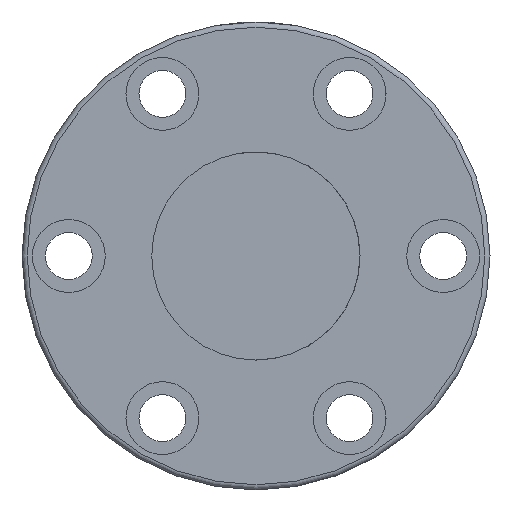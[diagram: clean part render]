
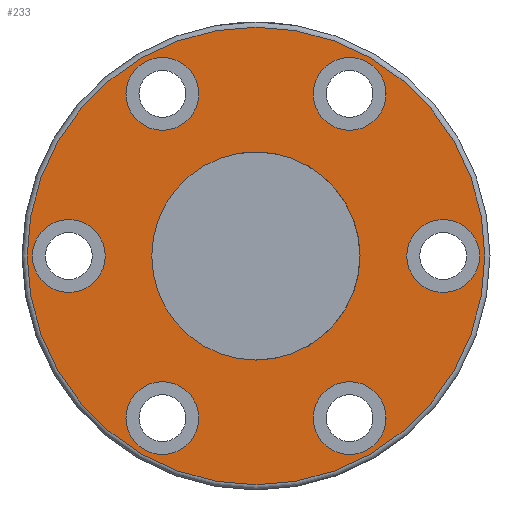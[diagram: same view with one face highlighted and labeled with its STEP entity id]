
A CAD part, front view. The second image highlights one B-rep face of the part: STEP entity #233.
In plain terms, the highlighted planar face has unit normal (0, -1, 0).
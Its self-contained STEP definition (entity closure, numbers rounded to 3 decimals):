
#2 = CARTESIAN_POINT ( 'NONE',  ( 18.039, -27.461, -24.177 ) ) ;
#38 = ORIENTED_EDGE ( 'NONE', *, *, #540, .T. ) ;
#40 = EDGE_CURVE ( 'NONE', #757, #757, #275, .T. ) ;
#64 = AXIS2_PLACEMENT_3D ( 'NONE', #1014, #308, #585 ) ;
#66 = DIRECTION ( 'NONE',  ( 0., 0., 1. ) ) ;
#89 = EDGE_LOOP ( 'NONE', ( #893 ) ) ;
#99 = DIRECTION ( 'NONE',  ( 0., 1., 0. ) ) ;
#106 = DIRECTION ( 'NONE',  ( 0., 1., 0. ) ) ;
#115 = DIRECTION ( 'NONE',  ( 0., 1., 0. ) ) ;
#116 = ORIENTED_EDGE ( 'NONE', *, *, #759, .T. ) ;
#127 = CIRCLE ( 'NONE', #852, 20. ) ;
#157 = CARTESIAN_POINT ( 'NONE',  ( -17.961, -27.461, 38.177 ) ) ;
#169 = CARTESIAN_POINT ( 'NONE',  ( -17.961, -27.461, -24.177 ) ) ;
#182 = PLANE ( 'NONE',  #287 ) ;
#188 = CARTESIAN_POINT ( 'NONE',  ( 36.039, -27.461, 0. ) ) ;
#199 = DIRECTION ( 'NONE',  ( 0., 0., 1. ) ) ;
#228 = DIRECTION ( 'NONE',  ( 0., 1., 0. ) ) ;
#233 = ADVANCED_FACE ( 'NONE', ( #268, #882, #868, #359, #1055, #525, #622, #609 ), #182, .F. ) ;
#240 = ORIENTED_EDGE ( 'NONE', *, *, #672, .T. ) ;
#244 = AXIS2_PLACEMENT_3D ( 'NONE', #567, #991, #386 ) ;
#268 = FACE_BOUND ( 'NONE', #346, .T. ) ;
#275 = CIRCLE ( 'NONE', #1118, 7. ) ;
#287 = AXIS2_PLACEMENT_3D ( 'NONE', #970, #350, #792 ) ;
#291 = CIRCLE ( 'NONE', #244, 7. ) ;
#293 = ORIENTED_EDGE ( 'NONE', *, *, #40, .T. ) ;
#302 = CIRCLE ( 'NONE', #754, 7. ) ;
#308 = DIRECTION ( 'NONE',  ( 0., 1., 0. ) ) ;
#313 = AXIS2_PLACEMENT_3D ( 'NONE', #642, #536, #726 ) ;
#329 = VERTEX_POINT ( 'NONE', #524 ) ;
#343 = VERTEX_POINT ( 'NONE', #157 ) ;
#346 = EDGE_LOOP ( 'NONE', ( #116 ) ) ;
#350 = DIRECTION ( 'NONE',  ( 0., 1., 0. ) ) ;
#359 = FACE_BOUND ( 'NONE', #816, .T. ) ;
#377 = EDGE_LOOP ( 'NONE', ( #38 ) ) ;
#386 = DIRECTION ( 'NONE',  ( 0., 0., 1. ) ) ;
#402 = CARTESIAN_POINT ( 'NONE',  ( 0.039, -27.461, 0. ) ) ;
#506 = EDGE_CURVE ( 'NONE', #692, #692, #796, .T. ) ;
#524 = CARTESIAN_POINT ( 'NONE',  ( 0.039, -27.461, 44. ) ) ;
#525 = FACE_BOUND ( 'NONE', #89, .T. ) ;
#536 = DIRECTION ( 'NONE',  ( 0., -1., 0. ) ) ;
#540 = EDGE_CURVE ( 'NONE', #1035, #1035, #302, .T. ) ;
#547 = CARTESIAN_POINT ( 'NONE',  ( -35.961, -27.461, 0. ) ) ;
#552 = CARTESIAN_POINT ( 'NONE',  ( -17.961, -27.461, 31.177 ) ) ;
#561 = EDGE_LOOP ( 'NONE', ( #787 ) ) ;
#567 = CARTESIAN_POINT ( 'NONE',  ( 18.039, -27.461, -31.177 ) ) ;
#578 = ORIENTED_EDGE ( 'NONE', *, *, #981, .T. ) ;
#583 = DIRECTION ( 'NONE',  ( -1., 0., 0. ) ) ;
#585 = DIRECTION ( 'NONE',  ( 0., 0., 1. ) ) ;
#588 = EDGE_LOOP ( 'NONE', ( #293 ) ) ;
#609 = FACE_BOUND ( 'NONE', #561, .T. ) ;
#622 = FACE_OUTER_BOUND ( 'NONE', #1099, .T. ) ;
#626 = EDGE_CURVE ( 'NONE', #343, #343, #1001, .T. ) ;
#627 = ORIENTED_EDGE ( 'NONE', *, *, #506, .T. ) ;
#642 = CARTESIAN_POINT ( 'NONE',  ( 0.039, -27.461, 0. ) ) ;
#656 = CARTESIAN_POINT ( 'NONE',  ( 18.039, -27.461, 38.177 ) ) ;
#672 = EDGE_CURVE ( 'NONE', #329, #329, #1103, .T. ) ;
#692 = VERTEX_POINT ( 'NONE', #169 ) ;
#726 = DIRECTION ( 'NONE',  ( 0., 0., 1. ) ) ;
#754 = AXIS2_PLACEMENT_3D ( 'NONE', #547, #115, #199 ) ;
#757 = VERTEX_POINT ( 'NONE', #656 ) ;
#759 = EDGE_CURVE ( 'NONE', #783, #783, #813, .T. ) ;
#764 = VERTEX_POINT ( 'NONE', #1117 ) ;
#770 = CARTESIAN_POINT ( 'NONE',  ( 36.039, -27.461, 7. ) ) ;
#783 = VERTEX_POINT ( 'NONE', #770 ) ;
#787 = ORIENTED_EDGE ( 'NONE', *, *, #1086, .T. ) ;
#792 = DIRECTION ( 'NONE',  ( 1., 0., 0. ) ) ;
#796 = CIRCLE ( 'NONE', #64, 7. ) ;
#811 = DIRECTION ( 'NONE',  ( 0., 0., 1. ) ) ;
#813 = CIRCLE ( 'NONE', #1033, 7. ) ;
#816 = EDGE_LOOP ( 'NONE', ( #627 ) ) ;
#846 = CARTESIAN_POINT ( 'NONE',  ( 18.039, -27.461, 31.177 ) ) ;
#852 = AXIS2_PLACEMENT_3D ( 'NONE', #402, #228, #583 ) ;
#857 = VERTEX_POINT ( 'NONE', #2 ) ;
#868 = FACE_BOUND ( 'NONE', #966, .T. ) ;
#882 = FACE_BOUND ( 'NONE', #377, .T. ) ;
#893 = ORIENTED_EDGE ( 'NONE', *, *, #626, .T. ) ;
#966 = EDGE_LOOP ( 'NONE', ( #578 ) ) ;
#970 = CARTESIAN_POINT ( 'NONE',  ( 0.039, -27.461, 0. ) ) ;
#981 = EDGE_CURVE ( 'NONE', #857, #857, #291, .T. ) ;
#991 = DIRECTION ( 'NONE',  ( 0., 1., 0. ) ) ;
#992 = DIRECTION ( 'NONE',  ( 0., 0., 1. ) ) ;
#1001 = CIRCLE ( 'NONE', #1088, 7. ) ;
#1014 = CARTESIAN_POINT ( 'NONE',  ( -17.961, -27.461, -31.177 ) ) ;
#1017 = DIRECTION ( 'NONE',  ( 0., 1., 0. ) ) ;
#1033 = AXIS2_PLACEMENT_3D ( 'NONE', #188, #106, #811 ) ;
#1035 = VERTEX_POINT ( 'NONE', #1047 ) ;
#1047 = CARTESIAN_POINT ( 'NONE',  ( -35.961, -27.461, 7. ) ) ;
#1055 = FACE_BOUND ( 'NONE', #588, .T. ) ;
#1086 = EDGE_CURVE ( 'NONE', #764, #764, #127, .T. ) ;
#1088 = AXIS2_PLACEMENT_3D ( 'NONE', #552, #99, #992 ) ;
#1099 = EDGE_LOOP ( 'NONE', ( #240 ) ) ;
#1103 = CIRCLE ( 'NONE', #313, 44. ) ;
#1117 = CARTESIAN_POINT ( 'NONE',  ( -19.961, -27.461, 0. ) ) ;
#1118 = AXIS2_PLACEMENT_3D ( 'NONE', #846, #1017, #66 ) ;
